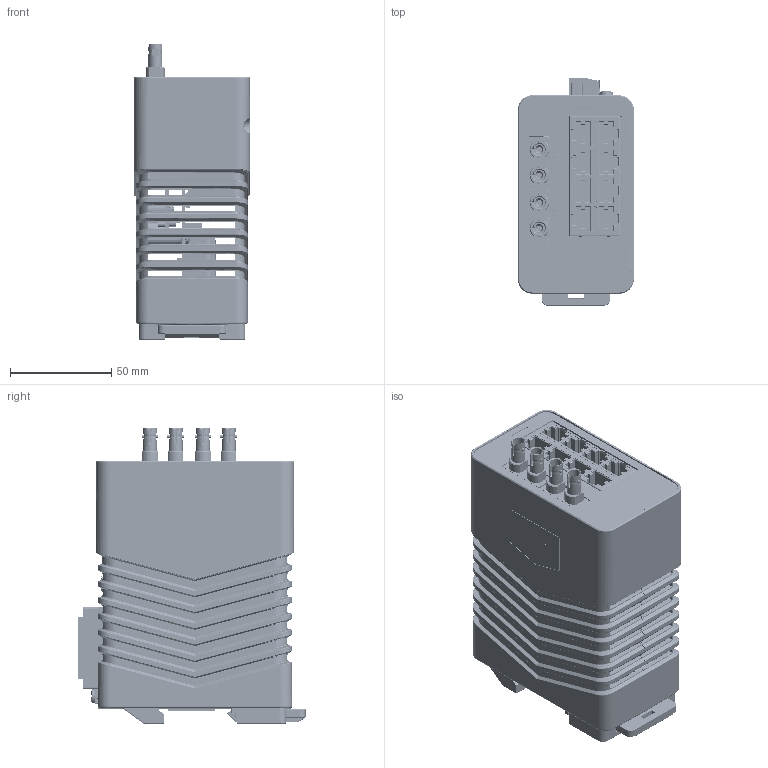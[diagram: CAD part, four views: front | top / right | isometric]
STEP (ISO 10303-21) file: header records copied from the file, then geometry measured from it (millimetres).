
FILE_DESCRIPTION (( 'STEP AP214' ), '1' );
FILE_NAME ('NT5010-FX2 & NT5010-GX2.STEP', '2023-01-24T14:54:41', ( '' ), ( '' ), 'SwSTEP 2.0', 'SolidWorks 2022', '' );
FILE_SCHEMA (( 'AUTOMOTIVE_DESIGN' ));
Length unit declared in the file: millimetre
Products named in the file (24): 11612; 11702_11702; 11614; 11836; 11614_ cutouts concept wide; label bulkhead; 11611; 5010 FX_GX Core Board; 10670; 11618; NT5010-FX2 & NT5010-GX2; 3_85 MASTER PART FILE; 11071; 11821; 96439A130_18-8 SS PRESS-FIT NUT FOR SHEET METAL_96439A130; Jubilee DB_Fiber_apr28; 10778; NPTP0061; overlay front wide 8RJ spacing_ cutouts concept wide FIBER; 11617_Wide; 10783; HWSMCZ08_95345A426; LOGO Sticker; 11820_95345A444
Assembly tree (40 placements, depth 3):
  NT5010-FX2 & NT5010-GX2
    11611
    11612
    11617_Wide
    11618
    11702_11702
    11614
      11614_ cutouts concept wide
      96439A130_18-8 SS PRESS-FIT NUT FOR SHEET METAL_96439A130  x2
    HWSMCZ08_95345A426  x13
    11820_95345A444  x4
    11821
    11836  x2
    10778
    10670
    overlay front wide 8RJ spacing_ cutouts concept wide FIBER
    label bulkhead
    LOGO Sticker
    Jubilee DB_Fiber_apr28
    NPTP0061
    5010 FX_GX Core Board
    11071
    10783  x2
  3_85 MASTER PART FILE
Bounding box: 57.23 x 112.11 x 145.75 mm (x, y, z)
Volume: 239382.7 mm3; surface area: 196076.8 mm2
Topology: 72 solids, 72 shells, 12559 faces, 33346 edges, 21275 vertices
Faces by surface type: plane 6352, cylinder 3534, bspline 1741, cone 470, torus 297, sphere 165
Entity records: 408281 total; most frequent: CARTESIAN_POINT 116134, ORIENTED_EDGE 49764, DIRECTION 43876, EDGE_CURVE 24882, VECTOR 16258, LINE 16258, VERTEX_POINT 15983, AXIS2_PLACEMENT_3D 13809
